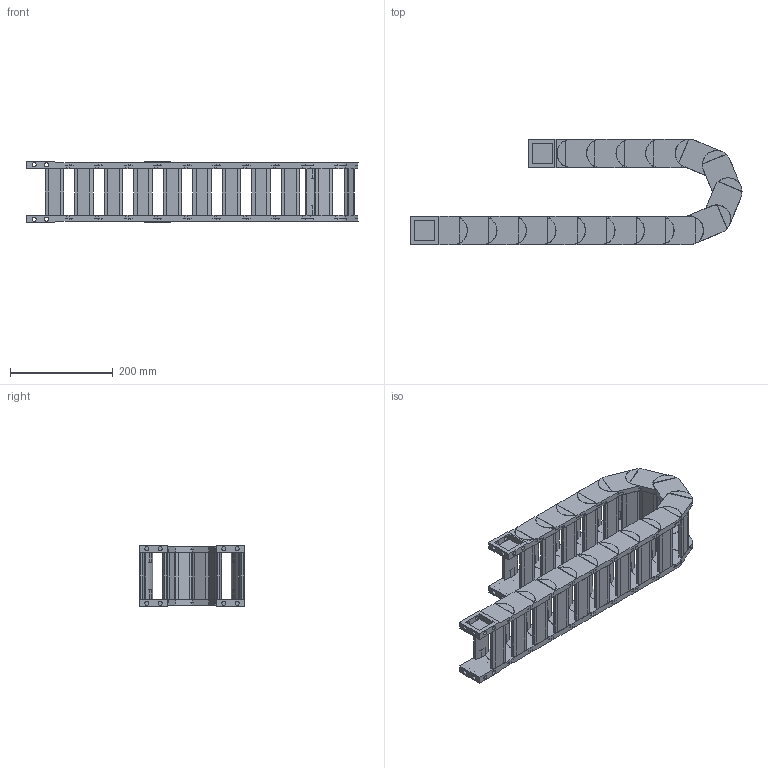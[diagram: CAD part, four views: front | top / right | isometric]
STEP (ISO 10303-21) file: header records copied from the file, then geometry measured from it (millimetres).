
FILE_DESCRIPTION((''),'2;1');
FILE_NAME('HD35-R75-ZPT_ASM','2022-06-17T11:34:03',('admin'),(''),'CREO PARAMETRIC BY PTC INC, 2021164','CREO PARAMETRIC BY PTC INC, 2021164','');
FILE_SCHEMA(('CONFIG_CONTROL_DESIGN','GEOMETRIC_VALIDATION_PROPERTIES_MIM'));
Length unit declared in the file: millimetre
Products named in the file (6): HD35; 35-600001; HD35_ASM; 35-TL_11; 35-WL; HD35-R75-ZPT_ASM
Assembly tree (22 placements, depth 3):
  HD35-R75-ZPT_ASM
    HD35_ASM  x16
      HD35
      35-600001
    35-TL_11
    35-WL
    35-600001  x2
Bounding box: 646.69 x 205 x 118.2 mm (x, y, z)
Volume: 2393581.3 mm3; surface area: 868509.2 mm2
Topology: 72 solids, 72 shells, 1354 faces, 3602 edges, 2468 vertices
Faces by surface type: plane 918, cylinder 436
Entity records: 9383 total; most frequent: DIRECTION 1418, CARTESIAN_POINT 1408, ORIENTED_EDGE 1300, EDGE_CURVE 650, AXIS2_PLACEMENT_3D 504, VERTEX_POINT 440, VECTOR 410, LINE 410
